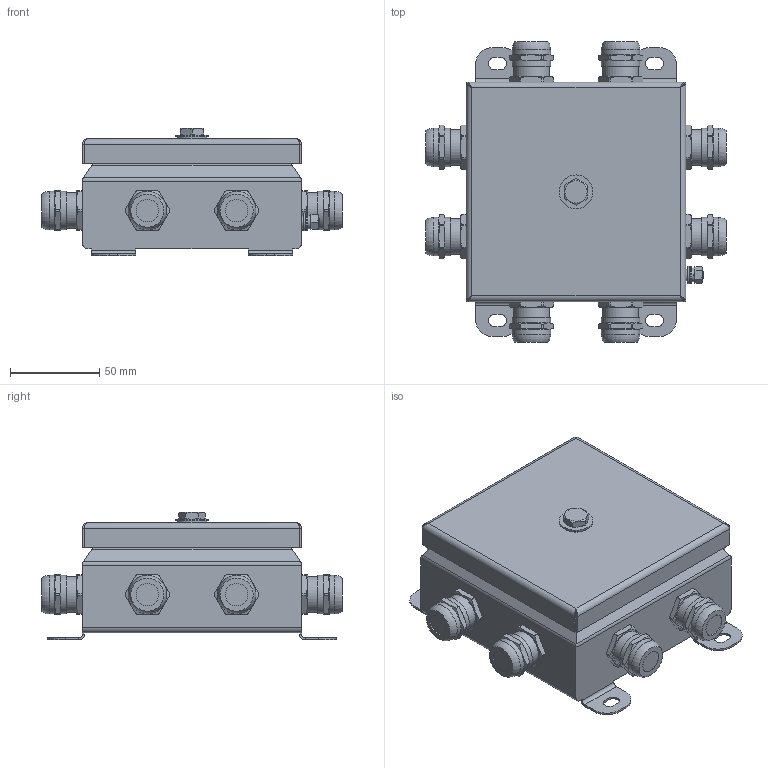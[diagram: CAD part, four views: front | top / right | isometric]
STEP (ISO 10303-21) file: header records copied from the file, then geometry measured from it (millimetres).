
FILE_DESCRIPTION(('STEP AP203'), '1');
FILE_NAME('Êîðîáêà 1212 IP66', '', ('UNSPECIFIED'), ('UNSPECIFIED'), 'ASCON STEP Converter 1.6', 'ASCON Math Kernel', '');
FILE_SCHEMA(('CONFIG_CONTROL_DESIGN'));
Length unit declared in the file: millimetre
Bounding box: 168.67 x 168.67 x 71.7 mm (x, y, z)
Volume: 970428.7 mm3; surface area: 92113.9 mm2
Topology: 2 solids, 2 shells, 549 faces, 1354 edges, 853 vertices
Faces by surface type: plane 257, cylinder 197, cone 77, torus 10, bspline 8
Full cylindrical faces by diameter (mm): 3.7 x1, 4.134 x1, 5 x1, 5.5 x2, 6.5 x1, 10 x2, 12.6 x8, 17 x1, 19 x1, 20 x8, 21.6 x16
Entity records: 30635 total; most frequent: CARTESIAN_POINT 5262, ORIENTED_EDGE 2558, DIRECTION 2532, PROPERTY_DEFINITION 1888, PROPERTY_DEFINITION_REPRESENTATION 1888, REPRESENTATION 1888, EDGE_CURVE 1279, GENERAL_PROPERTY_ASSOCIATION 1096
